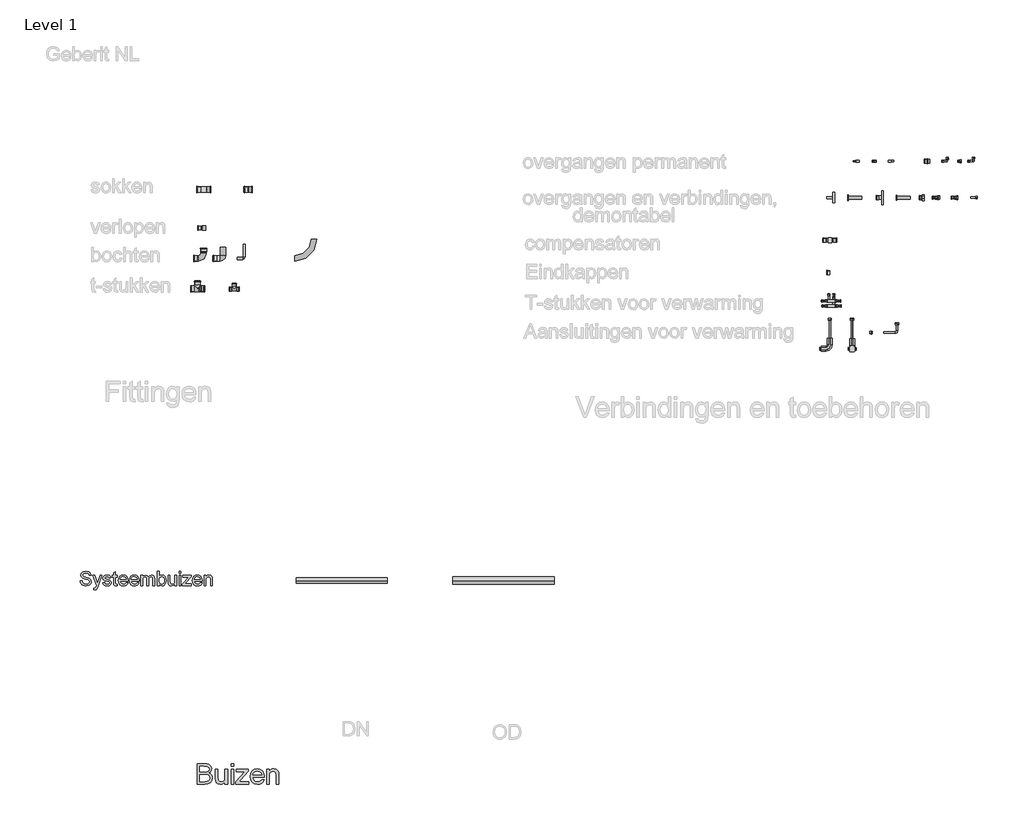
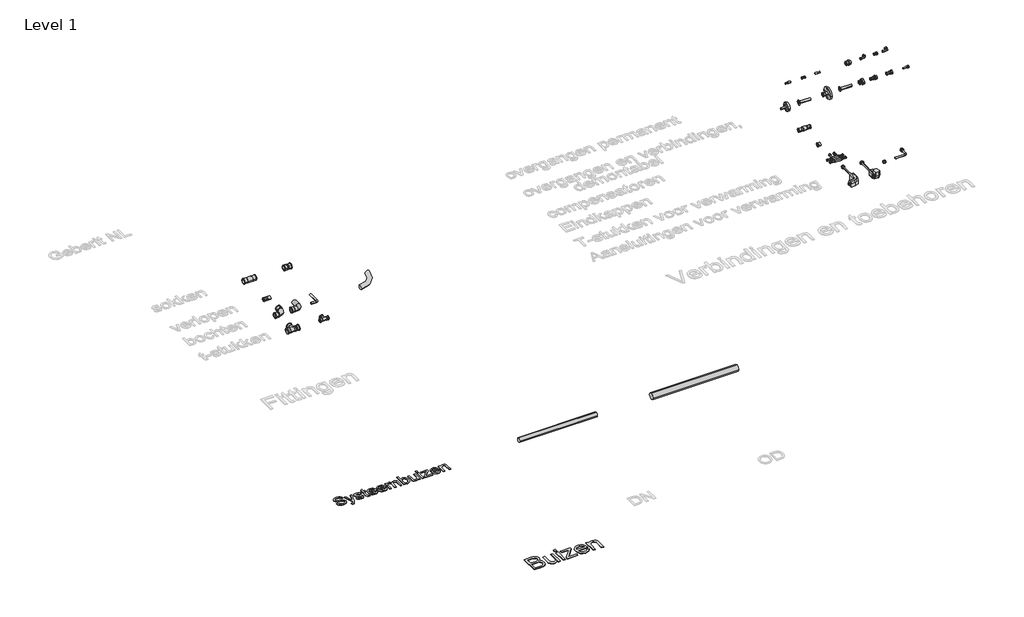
# One storey, part 1 of 8: 30 pipe fittings, 3 pipe segments, 2 proxies.
"""IFC4 building model written with IfcOpenShell, lengths in millimetres."""

from ifc_helpers import new_model, si_unit, point, frame, frame_2d, origin, origin_with_axes, place, context, project, spatial, polyline, circle_curve, trimmed, segment, composite_curve, outline, extrude, transform, mapped, element, save
from components import pipe_fitting_f131157e, pipe_fitting_ef4b92c7, pipe_fitting_d829275a, pipe_fitting_d16b05df, pipe_fitting_df6c98cd, pipe_fitting_f14cd62b, pipe_fitting_d1afa636, pipe_fitting_58cf78d7, pipe_fitting_7e052b8f, pipe_fitting_bf6d9b78, pipe_fitting_812e0acf, pipe_fitting_fd989550, pipe_fitting_7fbc6128, pipe_fitting_85b2fc61, pipe_fitting_1523a521, pipe_fitting_2e0e9b0a, pipe_fitting_d5600d2a, pipe_fitting_86d36912, pipe_fitting_3b2257b0, pipe_fitting_caa33bd4, pipe_fitting_c2962759, pipe_fitting_7915c5a4, pipe_fitting_14417a9a, pipe_fitting_bc17f14c, pipe_fitting_6f0e400b, pipe_fitting_93ddfdb1, pipe_fitting_02f2142c, pipe_fitting_28b5c15c, pipe_fitting_a9847738, pipe_fitting_fbca41b0, pipe_fitting_a43a226b, dn10_50_d12_54_8f782e33

model = new_model("IFC4")

# Units and contexts
model_context = context("Model", 3, world=origin())
ifc_project = project(units=[si_unit("LENGTHUNIT", "METRE", prefix="MILLI")], contexts=[model_context])

# Site, building, storey
site = spatial("IfcSite", under=ifc_project)
building = spatial("IfcBuilding", under=site)
storey = spatial("IfcBuildingStorey", under=building, Name="Level 1", Elevation=0.0)

# Proxies
placement = place(None, origin())
element("IfcBuildingElementProxy", 1, Name="medium", ObjectType="medium", at=placement, inside=storey, context=model_context, shape_type="SweptSolid", body=[
    extrude(outline(polyline([(-587.7503667, -500.1108057), (-587.7503667, -299.1981854), (-511.0837589, -299.1981854), (-489.9979892, -300.6758447), (-473.5352699, -305.1088227), (-460.9169175, -312.6074841), (-451.3642483, -323.2821933), (-445.3493777, -335.8392321), (-443.3444208, -348.984882), (-445.0305466, -361.0820683), (-450.0889241, -372.4557533), (-458.5563413, -382.4069613), (-470.4695866, -390.2367164), (-456.2386848, -397.6679327), (-445.7233911, -408.9741727), (-439.2302738, -423.4074097), (-437.0659014, -440.2196168), (-442.9765388, -467.2221553), (-457.6182422, -486.4501209), (-479.4704327, -496.6527149), (-511.6723701, -500.1108057), (-587.7503667, -500.1108057)]), holes=[polyline([(-562.6362891, -474.9967281), (-511.1328098, -474.9967281), (-492.4934554, -474.0157095), (-476.7235805, -468.5465305), (-466.2757319, -457.3874433), (-462.179979, -440.4648715), (-466.9869704, -420.9426003), (-473.2838839, -413.8853974), (-482.5606415, -409.2930038), (-513.5853564, -405.9330149), (-562.6362891, -405.9330149), (-562.6362891, -474.9967281)]), polyline([(-562.6362891, -380.8189374), (-516.7736671, -380.8189374), (-489.9918578, -378.6606963), (-473.8786264, -369.3655446), (-468.4584984, -353.0070585), (-473.5107444, -336.624047), (-487.9807696, -326.9364878), (-520.2562833, -324.3122629), (-562.6362891, -324.3122629), (-562.6362891, -380.8189374)])]), origin_with_axes(), (0.0, 0.0, 1.0), 5.0),
    extrude(outline(polyline([(-311.4955137, -500.1108057), (-311.4955137, -474.7514735), (-320.582199, -487.2196074), (-331.1649378, -496.1254174), (-343.2437299, -501.4689034), (-356.8185756, -503.2500653), (-380.4365996, -498.2468702), (-396.7215093, -485.6898314), (-404.2017765, -467.1976298), (-405.6733045, -443.8493859), (-405.6733045, -352.5656001), (-380.559227, -352.5656001), (-380.559227, -432.0281111), (-379.0386481, -457.6326979), (-375.3782222, -466.1736916), (-369.1058342, -472.6668088), (-350.3929034, -478.1359878), (-329.4236296, -472.5441815), (-321.066577, -465.9406997), (-315.5667412, -457.3138669), (-311.4955137, -429.3303098), (-311.4955137, -352.5656001), (-286.3814362, -352.5656001), (-286.3814362, -500.1108057), (-311.4955137, -500.1108057)])), origin_with_axes(), (0.0, 0.0, 1.0), 5.0),
    extrude(outline(polyline([(-251.8495796, -324.3122629), (-251.8495796, -299.1981854), (-226.7355021, -299.1981854), (-226.7355021, -324.3122629), (-251.8495796, -324.3122629)])), origin_with_axes(), (0.0, 0.0, 1.0), 5.0),
    extrude(outline(polyline([(-251.8495796, -500.1108057), (-251.8495796, -352.5656001), (-226.7355021, -352.5656001), (-226.7355021, -500.1108057), (-251.8495796, -500.1108057)])), origin_with_axes(), (0.0, 0.0, 1.0), 5.0),
    extrude(outline(polyline([(-204.7606842, -500.1108057), (-204.7606842, -476.4682561), (-118.0876862, -377.6796777), (-143.7413239, -377.6796777), (-198.4821648, -377.6796777), (-198.4821648, -352.5656001), (-82.3295562, -352.5656001), (-82.3295562, -373.9027558), (-159.1923677, -461.5567726), (-170.9645916, -474.9967281), (-141.9264394, -474.9967281), (-79.1902965, -474.9967281), (-79.1902965, -500.1108057), (-204.7606842, -500.1108057)])), origin_with_axes(), (0.0, 0.0, 1.0), 5.0),
    extrude(outline(polyline([(49.2250453, -456.16117), (73.8486135, -459.3004297), (64.976526, -477.8539449), (50.8192006, -491.7230962), (31.6954682, -500.3683231), (7.9241599, -503.2500653), (-21.5431879, -498.277527), (-44.2169815, -483.3599121), (-58.6747439, -459.4659766), (-63.4939981, -427.5644762), (-58.625693, -394.5899867), (-44.0207778, -369.9296303), (-21.6535525, -354.5521629), (6.5016829, -349.4263404), (33.7801328, -354.5399002), (55.577141, -369.8805794), (69.8693566, -394.4918848), (74.6334284, -427.4173234), (74.4862756, -434.1863521), (-38.3799205, -434.1863521), (-34.0327816, -452.9851221), (-23.9344209, -466.8052224), (-9.3601625, -475.3032964), (8.4146693, -478.1359878), (33.0382375, -472.887538), (42.1862364, -466.0817211), (49.2250453, -456.16117)]), holes=[polyline([(-38.3799205, -409.0722746), (49.5193509, -409.0722746), (46.1225738, -395.8039973), (39.4639097, -386.3126418), (24.8222062, -377.4834739), (6.403581, -374.540418), (-10.5251221, -376.8887314), (-24.523032, -383.9336716), (-34.2535108, -394.9149491), (-38.3799205, -409.0722746)])]), origin_with_axes(), (0.0, 0.0, 1.0), 5.0),
    extrude(outline(polyline([(99.7475059, -500.1108057), (99.7475059, -352.5656001), (124.8615835, -352.5656001), (124.8615835, -373.1669919), (133.5865181, -362.7804569), (144.0650236, -355.3615033), (156.2971, -350.9101311), (170.2827471, -349.4263404), (193.9988731, -354.2088064), (210.1856809, -366.7658451), (217.714999, -385.2335213), (219.0393742, -409.513733), (219.0393742, -500.1108057), (193.9252967, -500.1108057), (193.9252967, -412.8982473), (191.0312917, -390.6781748), (180.8041722, -378.9304764), (163.5627694, -374.540418), (148.8536209, -377.0052273), (136.3149762, -384.3996554), (127.7249317, -398.6857396), (124.8615835, -421.8255171), (124.8615835, -500.1108057), (99.7475059, -500.1108057)])), origin_with_axes(), (0.0, 0.0, 1.0), 5.0),
])
element("IfcBuildingElementProxy", 2, Name="small", ObjectType="small", at=placement, inside=storey, context=model_context, shape_type="SweptSolid", body=[
    extrude(outline(polyline([(-1740.3989931, 1506.8471385), (-1722.8191388, 1506.8471385), (-1717.1537561, 1489.2501164), (-1703.316488, 1478.1253648), (-1682.2343971, 1473.8849117), (-1663.8648228, 1477.0952953), (-1652.0018548, 1485.919558), (-1648.1047582, 1497.7138548), (-1651.0232887, 1508.6840959), (-1662.9720959, 1516.6671352), (-1688.5693251, 1523.3797553), (-1716.1236865, 1532.0495077), (-1731.0768634, 1545.1313914), (-1736.0040296, 1562.6082388), (-1729.9094512, 1582.5057496), (-1722.411403, 1590.6432993), (-1712.1064151, 1596.5490316), (-1686.0456546, 1601.3388552), (-1658.2337758, 1596.3258499), (-1647.5725556, 1590.1368485), (-1639.6925232, 1581.5958548), (-1634.7052696, 1571.2350715), (-1632.7223857, 1559.5867013), (-1650.30224, 1559.5867013), (-1653.5297913, 1570.0762433), (-1660.2595793, 1577.6472547), (-1670.774873, 1582.2310644), (-1685.3589416, 1583.7590009), (-1700.2863666, 1582.2482322), (-1710.5269751, 1577.715926), (-1716.4498752, 1571.0462255), (-1718.4241753, 1563.1232736), (-1712.8274639, 1550.9341168), (-1684.122858, 1541.1141201), (-1653.0147565, 1532.2898573), (-1636.0014405, 1518.0405613), (-1630.5249039, 1498.1602183), (-1632.100052, 1487.3230279), (-1636.8254962, 1477.1296309), (-1644.5080985, 1468.3568716), (-1654.9547209, 1461.7815941), (-1681.5476841, 1456.3050574), (-1698.771306, 1457.7814905), (-1712.9476386, 1462.2107897), (-1724.2397765, 1469.6101229), (-1732.8108138, 1479.9966579), (-1738.3131022, 1492.649346), (-1740.3989931, 1506.8471385)])), origin_with_axes(), (0.0, 0.0, 1.0), 5.0),
    extrude(outline(polyline([(-1606.3526043, 1418.9478671), (-1608.5500861, 1435.875344), (-1599.6228163, 1434.3302396), (-1591.2792527, 1436.270204), (-1586.1632404, 1441.6780693), (-1581.356249, 1454.6226104), (-1579.9828229, 1458.8802314), (-1617.3400132, 1561.7841831), (-1598.7987606, 1561.7841831), (-1578.9870889, 1504.4436428), (-1572.0856227, 1481.5074267), (-1565.1841565, 1501.7654619), (-1544.8231143, 1561.7841831), (-1526.4192044, 1561.7841831), (-1562.3686329, 1456.0303722), (-1571.7079305, 1433.0941561), (-1581.9056194, 1420.6989854), (-1595.6055449, 1416.7503853), (-1606.3526043, 1418.9478671)])), origin_with_axes(), (0.0, 0.0, 1.0), 5.0),
    extrude(outline(polyline([(-1518.4533329, 1489.2672842), (-1500.8734786, 1491.464766), (-1498.1008746, 1483.945258), (-1492.7359289, 1478.4172179), (-1474.0916694, 1473.8849117), (-1456.1684586, 1478.0395257), (-1450.3313976, 1487.7908511), (-1456.2027942, 1495.6880513), (-1474.2976833, 1500.7010566), (-1500.7704717, 1509.3021377), (-1512.3244188, 1519.3453161), (-1516.2558511, 1533.5259408), (-1513.096971, 1546.6249923), (-1504.4787222, 1556.6338352), (-1493.3024671, 1561.8356866), (-1478.1776121, 1563.9816649), (-1456.7865003, 1560.5309318), (-1443.1895818, 1551.1916342), (-1437.1465069, 1535.4144017), (-1454.7263611, 1533.2169199), (-1461.3359743, 1542.9167418), (-1476.8041859, 1546.4018106), (-1493.6286559, 1543.0712523), (-1498.6759968, 1535.3113947), (-1496.581522, 1530.1953824), (-1490.0234123, 1526.3154537), (-1474.8813894, 1522.5728675), (-1449.0781462, 1514.2979752), (-1437.0950034, 1504.9243419), (-1432.7515433, 1489.6449764), (-1437.8503877, 1472.8205065), (-1452.563215, 1460.6141819), (-1474.3320189, 1456.3050574), (-1492.0577997, 1458.3823644), (-1504.993757, 1464.6142854), (-1513.6291737, 1474.9321491), (-1518.4533329, 1489.2672842)])), origin_with_axes(), (0.0, 0.0, 1.0), 5.0),
    extrude(outline(polyline([(-1375.6170169, 1473.163863), (-1373.4195351, 1457.9875044), (-1386.5700902, 1456.3050574), (-1401.3000852, 1459.2235879), (-1408.647915, 1466.8804385), (-1410.7767254, 1486.8294528), (-1410.7767254, 1544.2043288), (-1423.9616162, 1544.2043288), (-1423.9616162, 1561.7841831), (-1410.7767254, 1561.7841831), (-1410.7767254, 1586.8835453), (-1393.1968712, 1597.2185769), (-1393.1968712, 1561.7841831), (-1375.6170169, 1561.7841831), (-1375.6170169, 1544.2043288), (-1393.1968712, 1544.2043288), (-1393.1968712, 1487.3444876), (-1392.2698085, 1478.2798753), (-1389.2654389, 1475.0694917), (-1383.2738675, 1473.8849117), (-1375.6170169, 1473.163863)])), origin_with_axes(), (0.0, 0.0, 1.0), 5.0),
    extrude(outline(polyline([(-1285.7262776, 1489.2672842), (-1268.4897799, 1487.0698024), (-1274.7002411, 1474.0823417), (-1284.6103689, 1464.3739359), (-1297.9969816, 1458.322277), (-1314.6368974, 1456.3050574), (-1335.2640408, 1459.7858342), (-1351.1356964, 1470.2281647), (-1361.2561301, 1486.9539196), (-1364.629608, 1509.2849698), (-1361.2217944, 1532.3671125), (-1350.9983538, 1549.629362), (-1335.3412961, 1560.3935891), (-1315.6326313, 1563.9816649), (-1296.5377163, 1560.4021731), (-1281.2798106, 1549.6636976), (-1271.2752597, 1532.4357838), (-1267.9404095, 1509.3879768), (-1268.0434164, 1504.6496567), (-1347.0497537, 1504.6496567), (-1344.0067565, 1491.4905177), (-1336.9379039, 1481.8164475), (-1326.7359231, 1475.8677957), (-1314.2935408, 1473.8849117), (-1297.0570431, 1477.5588266), (-1285.7262776, 1489.2672842)]), holes=[polyline([(-1347.0497537, 1522.229511), (-1285.5202637, 1522.229511), (-1292.5590726, 1538.1612539), (-1302.808265, 1544.3416714), (-1315.7013026, 1546.4018106), (-1327.5513948, 1544.7579912), (-1337.3499318, 1539.8265331), (-1344.1612669, 1532.1396388), (-1347.0497537, 1522.229511)])]), origin_with_axes(), (0.0, 0.0, 1.0), 5.0),
    extrude(outline(polyline([(-1178.0496702, 1489.2672842), (-1160.8131725, 1487.0698024), (-1167.0236337, 1474.0823417), (-1176.9337615, 1464.3739359), (-1190.3203742, 1458.322277), (-1206.9602899, 1456.3050574), (-1227.5874334, 1459.7858342), (-1243.4590889, 1470.2281647), (-1253.5795226, 1486.9539196), (-1256.9530005, 1509.2849698), (-1253.545187, 1532.3671125), (-1243.3217463, 1549.629362), (-1227.6646886, 1560.3935891), (-1207.9560239, 1563.9816649), (-1188.8611089, 1560.4021731), (-1173.6032032, 1549.6636976), (-1163.5986523, 1532.4357838), (-1160.263802, 1509.3879768), (-1160.366809, 1504.6496567), (-1239.3731463, 1504.6496567), (-1236.330149, 1491.4905177), (-1229.2612965, 1481.8164475), (-1219.0593156, 1475.8677957), (-1206.6169334, 1473.8849117), (-1189.3804357, 1477.5588266), (-1178.0496702, 1489.2672842)]), holes=[polyline([(-1239.3731463, 1522.229511), (-1177.8436563, 1522.229511), (-1184.8824651, 1538.1612539), (-1195.1316575, 1544.3416714), (-1208.0246952, 1546.4018106), (-1219.8747874, 1544.7579912), (-1229.6733243, 1539.8265331), (-1236.4846595, 1532.1396388), (-1239.3731463, 1522.229511)])]), origin_with_axes(), (0.0, 0.0, 1.0), 5.0),
    extrude(outline(polyline([(-1142.6839477, 1458.5025392), (-1142.6839477, 1561.7841831), (-1125.1040935, 1561.7841831), (-1125.1040935, 1544.7880349), (-1113.0179436, 1558.7111422), (-1095.8157815, 1563.9816649), (-1078.2015916, 1558.6081352), (-1068.5189375, 1543.5519514), (-1054.8018442, 1558.8742365), (-1037.4795073, 1563.9816649), (-1024.2645729, 1561.8571464), (-1014.4917877, 1555.4835908), (-1008.4530047, 1544.6893199), (-1006.4400771, 1529.3026555), (-1006.4400771, 1458.5025392), (-1024.0199314, 1458.5025392), (-1024.0199314, 1521.7488118), (-1025.6508749, 1536.4273034), (-1031.5566072, 1543.6549584), (-1041.5997856, 1546.4018106), (-1051.1236374, 1544.6421084), (-1058.8877869, 1539.3630018), (-1064.0510107, 1530.2039664), (-1065.7720853, 1516.8044778), (-1065.7720853, 1458.5025392), (-1083.3519396, 1458.5025392), (-1083.3519396, 1523.705944), (-1087.4207144, 1540.7364279), (-1092.7899521, 1544.9854649), (-1100.7601156, 1546.4018106), (-1113.773328, 1542.6248888), (-1122.4259125, 1531.5688086), (-1125.1040935, 1510.5897246), (-1125.1040935, 1458.5025392), (-1142.6839477, 1458.5025392)])), origin_with_axes(), (0.0, 0.0, 1.0), 5.0),
    extrude(outline(polyline([(-962.4904414, 1458.5025392), (-980.0702957, 1458.5025392), (-980.0702957, 1599.1413734), (-962.4904414, 1599.1413734), (-962.4904414, 1546.9855167), (-950.1811098, 1559.7326278), (-934.8845765, 1563.9816649), (-917.2703866, 1560.1532396), (-903.6047967, 1549.3890124), (-895.2097296, 1532.6503816), (-892.1710243, 1511.6884655), (-895.3170285, 1488.2200468), (-904.7550411, 1470.7603673), (-918.6051851, 1459.9188849), (-934.9875834, 1456.3050574), (-950.6188894, 1460.9661223), (-962.4904414, 1474.9493169), (-962.4904414, 1458.5025392)]), holes=[polyline([(-962.4904414, 1510.8644099), (-961.2886936, 1496.2030861), (-957.68345, 1486.2800824), (-948.4729111, 1476.9837044), (-936.4983522, 1473.8849117), (-926.3521667, 1476.1682326), (-917.6824144, 1483.0181954), (-911.7337625, 1494.3918804), (-909.7508786, 1510.2463681), (-911.6522154, 1526.3326215), (-917.3562257, 1537.5775478), (-925.7555848, 1544.1957449), (-935.7429678, 1546.4018106), (-945.8891532, 1544.1184897), (-954.5589056, 1537.2685269), (-960.5075574, 1526.1008558), (-962.4904414, 1510.8644099)])]), origin_with_axes(), (0.0, 0.0, 1.0), 5.0),
    extrude(outline(polyline([(-806.4692347, 1458.5025392), (-806.4692347, 1476.2540718), (-820.2378315, 1461.292311), (-838.195378, 1456.3050574), (-854.7279948, 1459.807294), (-866.1274316, 1468.5972212), (-871.3636187, 1481.5417623), (-872.3936882, 1497.8855331), (-872.3936882, 1561.7841831), (-854.813834, 1561.7841831), (-854.813834, 1506.1604254), (-853.7494287, 1488.2372146), (-846.796459, 1477.713337), (-833.6974074, 1473.8849117), (-819.0189158, 1477.7991761), (-809.3190939, 1488.4603964), (-806.4692347, 1508.0488863), (-806.4692347, 1561.7841831), (-788.8893804, 1561.7841831), (-788.8893804, 1458.5025392), (-806.4692347, 1458.5025392)])), origin_with_axes(), (0.0, 0.0, 1.0), 5.0),
    extrude(outline(polyline([(-764.7170808, 1581.5615192), (-764.7170808, 1599.1413734), (-747.1372265, 1599.1413734), (-747.1372265, 1581.5615192), (-764.7170808, 1581.5615192)])), origin_with_axes(), (0.0, 0.0, 1.0), 5.0),
    extrude(outline(polyline([(-764.7170808, 1458.5025392), (-764.7170808, 1561.7841831), (-747.1372265, 1561.7841831), (-747.1372265, 1458.5025392), (-764.7170808, 1458.5025392)])), origin_with_axes(), (0.0, 0.0, 1.0), 5.0),
    extrude(outline(polyline([(-731.754854, 1458.5025392), (-731.754854, 1475.0523239), (-671.0837554, 1544.2043288), (-689.0413018, 1544.2043288), (-727.3598905, 1544.2043288), (-727.3598905, 1561.7841831), (-646.0530644, 1561.7841831), (-646.0530644, 1546.8481741), (-699.8570325, 1485.4903624), (-708.0975892, 1476.0823935), (-687.7708827, 1476.0823935), (-643.8555826, 1476.0823935), (-643.8555826, 1458.5025392), (-731.754854, 1458.5025392)])), origin_with_axes(), (0.0, 0.0, 1.0), 5.0),
    extrude(outline(polyline([(-553.9648434, 1489.2672842), (-536.7283457, 1487.0698024), (-542.9388069, 1474.0823417), (-552.8489347, 1464.3739359), (-566.2355473, 1458.322277), (-582.8754631, 1456.3050574), (-603.5026066, 1459.7858342), (-619.3742621, 1470.2281647), (-629.4946958, 1486.9539196), (-632.8681737, 1509.2849698), (-629.4603602, 1532.3671125), (-619.2369195, 1549.629362), (-603.5798618, 1560.3935891), (-583.8711971, 1563.9816649), (-564.7762821, 1560.4021731), (-549.5183764, 1549.6636976), (-539.5138255, 1532.4357838), (-536.1789752, 1509.3879768), (-536.2819822, 1504.6496567), (-615.2883194, 1504.6496567), (-612.2453222, 1491.4905177), (-605.1764697, 1481.8164475), (-594.9744888, 1475.8677957), (-582.5321066, 1473.8849117), (-565.2956089, 1477.5588266), (-553.9648434, 1489.2672842)]), holes=[polyline([(-615.2883194, 1522.229511), (-553.7588295, 1522.229511), (-560.7976383, 1538.1612539), (-571.0468307, 1544.3416714), (-583.9398684, 1546.4018106), (-595.7899606, 1544.7579912), (-605.5884975, 1539.8265331), (-612.3998326, 1532.1396388), (-615.2883194, 1522.229511)])]), origin_with_axes(), (0.0, 0.0, 1.0), 5.0),
    extrude(outline(polyline([(-518.5991209, 1458.5025392), (-518.5991209, 1561.7841831), (-501.0192667, 1561.7841831), (-501.0192667, 1547.3632089), (-487.5768585, 1559.8270509), (-469.2244521, 1563.9816649), (-452.6231639, 1560.6339387), (-441.2923985, 1551.8440116), (-436.0218757, 1538.9166383), (-435.0948131, 1521.9204901), (-435.0948131, 1458.5025392), (-452.6746674, 1458.5025392), (-452.6746674, 1519.55133), (-454.7004709, 1535.1053808), (-461.8594545, 1543.3287697), (-473.9284365, 1546.4018106), (-484.2248404, 1544.676444), (-493.0018917, 1539.5003444), (-499.0149229, 1529.5000855), (-501.0192667, 1513.3022412), (-501.0192667, 1458.5025392), (-518.5991209, 1458.5025392)])), origin_with_axes(), (0.0, 0.0, 1.0), 5.0),
])

# Pipe fittings
pipe_fitting_shape = pipe_fitting_f131157e(model_context)
element("IfcPipeFitting", 3, ObjectType="NLRS_50_PIF_UN_Geberit Mapress radiatoraansluiting 90° met isolatiebox en schroefaansluiting voor Euroconus_PRO_1079240 : DN12-12-G3/4\" / d15-15-G3/4\" - OD", at=placement, inside=storey, context=model_context, shape_type="MappedRepresentation", body=[
    mapped(pipe_fitting_shape, transform((5661.662055, 3798.3428958, 0.0), x_axis=(1.0, 0.0, 0.0), y_axis=(0.0, 1.0, 0.0), z_axis=(0.0, 0.0, 1.0))),
])
pipe_fitting_2_shape = pipe_fitting_ef4b92c7(model_context)
element("IfcPipeFitting", 4, ObjectType="NLRS_50_PIF_UN_Geberit Mapress rvs axiale compensator met persmoffen_PRO_247182 : DN12-100 / d15-108 - OD", at=placement, inside=storey, context=model_context, shape_type="MappedRepresentation", body=[
    mapped(pipe_fitting_2_shape, transform((5661.662055, 4870.8053825, 0.0), x_axis=(1.0, 0.0, 0.0), y_axis=(0.0, 1.0, 0.0), z_axis=(0.0, 0.0, 1.0))),
])
pipe_fitting_3_shape = pipe_fitting_d829275a(model_context)
element("IfcPipeFitting", 5, ObjectType="NLRS_50_PIF_UN_Geberit Mapress Therm flens PN 10_16, met persmof_PRO_3208089 : DN12-100 / d15-108 - OD", at=placement, inside=storey, context=model_context, shape_type="MappedRepresentation", body=[
    mapped(pipe_fitting_3_shape, transform((6181.662055, 5290.8053825, 0.0), x_axis=(1.0, 0.0, 0.0), y_axis=(0.0, 1.0, 0.0), z_axis=(0.0, 0.0, 1.0))),
])
pipe_fitting_4_shape = pipe_fitting_d16b05df(model_context)
element("IfcPipeFitting", 6, ObjectType="NLRS_50_PIF_UN_Geberit Mapress Therm overgang met buitendraad_PRO_3208039 : DN12-100-R3\" / d15-108-R3\" - OD", at=placement, inside=storey, context=model_context, shape_type="MappedRepresentation", body=[
    mapped(pipe_fitting_4_shape, transform((6621.662055, 5650.8053825, 0.0), x_axis=(1.0, 0.0, 0.0), y_axis=(0.0, 1.0, 0.0), z_axis=(0.0, 0.0, 1.0))),
])
pipe_fitting_5_shape = pipe_fitting_df6c98cd(model_context)
element("IfcPipeFitting", 7, ObjectType="NLRS_50_PIF_UN_Geberit Mapress Therm overgang met wartel_PRO_3208096 : DN12-80-G3.1/2\" / d15-89-G3.1/2\" - OD", at=placement, inside=storey, context=model_context, shape_type="MappedRepresentation", body=[
    mapped(pipe_fitting_5_shape, transform((6568.412055, 5290.8053825, 0.0), x_axis=(1.0, 0.0, 0.0), y_axis=(0.0, 1.0, 0.0), z_axis=(0.0, 0.0, 1.0))),
])
pipe_fitting_6_shape = pipe_fitting_f14cd62b(model_context)
element("IfcPipeFitting", 8, ObjectType="NLRS_50_PIF_UN_Geberit Mapress Therm overschuifsok_PRO_3207553 : DN12-100 / d15-108 - OD", at=placement, inside=storey, context=model_context, shape_type="MappedRepresentation", body=[
    mapped(pipe_fitting_6_shape, transform((-522.2410764, 5370.8053825, 0.0), x_axis=(1.0, 0.0, 0.0), y_axis=(0.0, 1.0, 0.0), z_axis=(0.0, 0.0, 1.0))),
])
pipe_fitting_7_shape = pipe_fitting_d1afa636(model_context)
element("IfcPipeFitting", 9, ObjectType="NLRS_50_PIF_UN_Geberit Mapress Therm sok_PRO_3207533 : DN10-100 / d12-108 - OD", at=placement, inside=storey, context=model_context, shape_type="MappedRepresentation", body=[
    mapped(pipe_fitting_7_shape, transform((-82.2410764, 5370.8053825, 0.0), x_axis=(1.0, 0.0, 0.0), y_axis=(0.0, 1.0, 0.0), z_axis=(0.0, 0.0, 1.0))),
])
pipe_fitting_8_shape = pipe_fitting_58cf78d7(model_context)
element("IfcPipeFitting", 10, ObjectType="NLRS_50_PIF_UN_Geberit Mepla overgang naar Geberit Mapress, met insteekeinde_PRO_102866 : DN12-50 / d16-63 - OD", at=placement, inside=storey, context=model_context, shape_type="MappedRepresentation", body=[
    mapped(pipe_fitting_8_shape, transform((5921.662055, 5650.8053825, 0.0), x_axis=(1.0, 0.0, 0.0), y_axis=(0.0, 1.0, 0.0), z_axis=(0.0, 0.0, 1.0))),
])
pipe_fitting_9_shape = pipe_fitting_7e052b8f(model_context)
element("IfcPipeFitting", 11, ObjectType="NLRS_50_PIF_UN_Geberit PushFit overgang naar Geberit Mapress, met insteekeinden_PRO_102728 : DN12-20 / d16-25 - OD", at=placement, inside=storey, context=model_context, shape_type="MappedRepresentation", body=[
    mapped(pipe_fitting_9_shape, transform((6266.662055, 5650.8053825, 0.0), x_axis=(1.0, 0.0, 0.0), y_axis=(0.0, 1.0, 0.0), z_axis=(0.0, 0.0, 1.0))),
])
pipe_fitting_10_shape = pipe_fitting_bf6d9b78(model_context)
element("IfcPipeFitting", 12, ObjectType="NLRS_50_PIF_UN_Geberit radiatoraansluitbocht 90° met schroefaansluiting voor Euroconus_PRO_1079215 : DN12-12-G3/4'' / d15-15-G3/4'' - OD", at=placement, inside=storey, context=model_context, shape_type="MappedRepresentation", body=[
    mapped(pipe_fitting_10_shape, transform((6325.4745579, 3957.5227633, 0.0), x_axis=(1.0, 0.0, 0.0), y_axis=(0.0, 1.0, 0.0), z_axis=(0.0, 0.0, 1.0))),
])
pipe_fitting_11_shape = pipe_fitting_812e0acf(model_context)
element("IfcPipeFitting", 13, ObjectType="NLRS_50_PIF_UN_Geberit Mapress rvs pasbocht_PRO_103033 : DN12-100 / d15-108 - OD", at=placement, inside=storey, context=model_context, shape_type="MappedRepresentation", body=[
    mapped(pipe_fitting_11_shape, transform((-122.2410764, 4690.8053825, 0.0), x_axis=(1.0, 0.0, 0.0), y_axis=(0.0, 1.0, 0.0), z_axis=(0.0, 0.0, 1.0))),
])
pipe_fitting_12_shape = pipe_fitting_fd989550(model_context)
element("IfcPipeFitting", 14, ObjectType="NLRS_50_PIF_UN_Geberit Mapress Therm bocht met insteekeinde_PRO_3207565 : DN12-100 / d15-108 - OD", at=placement, inside=storey, context=model_context, shape_type="MappedRepresentation", body=[
    mapped(pipe_fitting_12_shape, transform((-330.0570667, 4690.8053825, 0.0), x_axis=(1.0, 0.0, 0.0), y_axis=(0.0, 1.0, 0.0), z_axis=(0.0, 0.0, 1.0))),
])
pipe_fitting_13_shape = pipe_fitting_7fbc6128(model_context)
element("IfcPipeFitting", 15, ObjectType="NLRS_50_PIF_UN_Geberit Mapress Therm bocht_PRO_3207561 : DN10-100 / d12-108 - OD", at=placement, inside=storey, context=model_context, shape_type="MappedRepresentation", body=[
    mapped(pipe_fitting_13_shape, transform((-522.2410764, 4690.8053825, 0.0), x_axis=(1.0, 0.0, 0.0), y_axis=(0.0, 1.0, 0.0), z_axis=(0.0, 0.0, 1.0))),
])
pipe_fitting_14_shape = pipe_fitting_85b2fc61(model_context)
element("IfcPipeFitting", 16, ObjectType="NLRS_50_PIF_UN_Geberit Mapress Therm overgangsknie 90° met binnendraad_PRO_3208051 : DN12-32-Rp1.1/4\" / d15-35-Rp1.1/4\" - OD", at=placement, inside=storey, context=model_context, shape_type="MappedRepresentation", body=[
    mapped(pipe_fitting_14_shape, transform((7081.662055, 5650.8053825, 0.0), x_axis=(1.0, 0.0, 0.0), y_axis=(0.0, 1.0, 0.0), z_axis=(0.0, 0.0, 1.0))),
])
pipe_fitting_15_shape = pipe_fitting_1523a521(model_context)
element("IfcPipeFitting", 17, ObjectType="NLRS_50_PIF_UN_Geberit Mapress Therm overgangsknie 90° met buitendraad_PRO_3208047 : DN12-50 / R½\"-2\" / d15-54 / R½\"-2\" - OD", at=placement, inside=storey, context=model_context, shape_type="MappedRepresentation", body=[
    mapped(pipe_fitting_15_shape, transform((6821.662055, 5650.8053825, 0.0), x_axis=(1.0, 0.0, 0.0), y_axis=(0.0, 1.0, 0.0), z_axis=(0.0, 0.0, 1.0))),
])
pipe_fitting_16_shape = pipe_fitting_2e0e9b0a(model_context)
element("IfcPipeFitting", 18, ObjectType="NLRS_50_PIF_UN_Geberit Mapress Therm kap_PRO_3207990 : DN12-100 / d15-108 - OD", at=placement, inside=storey, context=model_context, shape_type="MappedRepresentation", body=[
    mapped(pipe_fitting_16_shape, transform((5661.662055, 4550.8053825, 0.0), x_axis=(1.0, 0.0, 0.0), y_axis=(0.0, 1.0, 0.0), z_axis=(0.0, 0.0, 1.0))),
])
pipe_fitting_17_shape = pipe_fitting_d5600d2a(model_context)
element("IfcPipeFitting", 19, ObjectType="NLRS_50_PIF_UN_Geberit Mapress radiatoraansluit-T-stuk met isolatiebox en schroefaansluiting voor Euroconus_PRO_1079243 : DN12-15-G3/4\" / d15-18-G3/4\" - OD", at=placement, inside=storey, context=model_context, shape_type="MappedRepresentation", body=[
    mapped(pipe_fitting_17_shape, transform((5881.0818546, 3798.3428958, 0.0), x_axis=(1.0, 0.0, 0.0), y_axis=(0.0, 1.0, 0.0), z_axis=(0.0, 0.0, 1.0))),
])
pipe_fitting_18_shape = pipe_fitting_86d36912(model_context)
element("IfcPipeFitting", 20, ObjectType="NLRS_50_PIF_UN_Geberit Mapress Therm gelijkzijdig T-stuk_PRO_3207571 : DN12-100 / d15-108 - OD", at=placement, inside=storey, context=model_context, shape_type="MappedRepresentation", body=[
    mapped(pipe_fitting_18_shape, transform((-219.5313284, 4387.2979606, 0.0), x_axis=(1.0, 0.0, 0.0), y_axis=(0.0, 1.0, 0.0), z_axis=(0.0, 0.0, 1.0))),
])
pipe_fitting_19_shape = pipe_fitting_3b2257b0(model_context)
pipe_fitting_20_shape = pipe_fitting_caa33bd4(model_context)
element("IfcPipeFitting", 21, ObjectType="NLRS_50_PIF_UN_Geberit Mapress kruising-T-stuk met isolatiebox_PRO_103301 : DN10-20 / d12-22 - OD", at=placement, inside=storey, context=model_context, shape_type="MappedRepresentation", body=[
    mapped(pipe_fitting_19_shape, transform((5701.662055, 4270.8053825, 0.0), x_axis=(1.0, 0.0, 0.0), y_axis=(0.0, 1.0, 0.0), z_axis=(0.0, 0.0, 1.0))),
    mapped(pipe_fitting_20_shape, transform((5701.662055, 4270.8053825, 0.0), x_axis=(1.0, 0.0, 0.0), y_axis=(0.0, 1.0, 0.0), z_axis=(0.0, 0.0, 1.0))),
])
pipe_fitting_21_shape = pipe_fitting_c2962759(model_context)
element("IfcPipeFitting", 22, ObjectType="NLRS_50_PIF_UN_Geberit Mapress Therm verloop met insteekeinde_PRO_3207557 : DN10-100 / d12-108 - OD", at=placement, inside=storey, context=model_context, shape_type="MappedRepresentation", body=[
    mapped(pipe_fitting_21_shape, transform((-501.8713696, 4990.8053825, 0.0), x_axis=(-1.0, 0.0, 0.0), y_axis=(0.0, -1.0, 0.0), z_axis=(0.0, 0.0, 1.0))),
])
pipe_fitting_22_shape = pipe_fitting_7915c5a4(model_context)
element("IfcPipeFitting", 23, ObjectType="NLRS_50_PIF_UN_Mapress Therm 3-d koppeling binnendraad_PRO_3208079_geb : DN12-50-Rp2\" / d15-54-Rp2\" - OD", at=placement, inside=storey, context=model_context, shape_type="MappedRepresentation", body=[
    mapped(pipe_fitting_22_shape, transform((6895.6407726, 5290.8053825, 0.0), x_axis=(1.0, 0.0, 0.0), y_axis=(0.0, 1.0, 0.0), z_axis=(0.0, 0.0, 1.0))),
])
pipe_fitting_23_shape = pipe_fitting_14417a9a(model_context)
element("IfcPipeFitting", 24, ObjectType="NLRS_50_PIF_UN_Geberit Mapress Therm T-stuk : DN12-100 / d15-108 - OD", at=placement, inside=storey, context=model_context, shape_type="MappedRepresentation", body=[
    mapped(pipe_fitting_23_shape, transform((-582.2410764, 4390.8053825, 0.0), x_axis=(1.0, 0.0, 0.0), y_axis=(0.0, 1.0, 0.0), z_axis=(0.0, 0.0, 1.0))),
])
pipe_fitting_24_shape = pipe_fitting_bc17f14c(model_context)
element("IfcPipeFitting", 25, ObjectType="NLRS_50_PIF_UN_Mapress Therm 3-d koppeling buitendraad_PRO_3208083_geb : DN12-50-R2\" / d15-54-R2\" - OD", at=placement, inside=storey, context=model_context, shape_type="MappedRepresentation", body=[
    mapped(pipe_fitting_24_shape, transform((6711.3179257, 5290.8053825, 0.0), x_axis=(1.0, 0.0, 0.0), y_axis=(0.0, 1.0, 0.0), z_axis=(0.0, 0.0, 1.0))),
])
pipe_fitting_25_shape = pipe_fitting_6f0e400b(model_context)
element("IfcPipeFitting", 26, ObjectType="NLRS_50_PIF_UN_Geberit Mapress koper verloopsok_PRO_103281 : DN12-15 / d15-18 - OD", at=placement, inside=storey, context=model_context, shape_type="MappedRepresentation", body=[
    mapped(pipe_fitting_25_shape, transform((6101.662055, 5650.8053825, 0.0), x_axis=(1.0, 0.0, 0.0), y_axis=(0.0, 1.0, 0.0), z_axis=(0.0, 0.0, 1.0))),
])
pipe_fitting_26_shape = pipe_fitting_93ddfdb1(model_context)
element("IfcPipeFitting", 27, ObjectType="NLRS_50_PIF_UN_Geberit Mapress Therm overgang met binnendraad_PRO_3208043 : DN10-50-Rp2\" / d12-54-Rp2\" - OD", at=placement, inside=storey, context=model_context, shape_type="MappedRepresentation", body=[
    mapped(pipe_fitting_26_shape, transform((6941.662055, 5650.8053825, 0.0), x_axis=(1.0, 0.0, 0.0), y_axis=(0.0, 1.0, 0.0), z_axis=(0.0, 0.0, 1.0))),
])
pipe_fitting_27_shape = pipe_fitting_02f2142c(model_context)
element("IfcPipeFitting", 28, ObjectType="NLRS_50_PIF_UN_Geberit Mapress rvs flens PN 10_16, met insteekeinde_PRO_332665 : DN50-100 / d54-108 - OD", at=placement, inside=storey, context=model_context, shape_type="MappedRepresentation", body=[
    mapped(pipe_fitting_27_shape, transform((5701.662055, 5290.8053825, 0.0), x_axis=(1.0, 0.0, 0.0), y_axis=(0.0, 1.0, 0.0), z_axis=(0.0, 0.0, 1.0))),
])
pipe_fitting_28_shape = pipe_fitting_28b5c15c(model_context)
element("IfcPipeFitting", 29, ObjectType="NLRS_50_PIF_UN_Geberit Mapress rvs flenskraag met insteekeinde, voor losse flens PN 10_16_PRO_103074 : DN20-100 / d22-108 - OD", at=placement, inside=storey, context=model_context, shape_type="MappedRepresentation", body=[
    mapped(pipe_fitting_28_shape, transform((5841.662055, 5290.8053825, 0.0), x_axis=(1.0, 0.0, 0.0), y_axis=(0.0, 1.0, 0.0), z_axis=(0.0, 0.0, 1.0))),
])
pipe_fitting_29_shape = pipe_fitting_a9847738(model_context)
element("IfcPipeFitting", 30, ObjectType="NLRS_50_PIF_UN_Geberit Mapress overgang met klemring-schroefverbinding voor ribbelbuizen, NPW, insteekeinde_PRO_144536 : DN12-25 / d15-28 - OD", at=placement, inside=storey, context=model_context, shape_type="MappedRepresentation", body=[
    mapped(pipe_fitting_29_shape, transform((7101.662055, 5290.8053825, 0.0), x_axis=(1.0, 0.0, 0.0), y_axis=(0.0, 1.0, 0.0), z_axis=(0.0, 0.0, 1.0))),
])
pipe_fitting_30_shape = pipe_fitting_fbca41b0(model_context)
element("IfcPipeFitting", 31, ObjectType="NLRS_50_PIF_UN_Geberit Mapress rvs flenskraag met insteekeinde, voor losse flens PN 6_PRO_103073 : DN20-100 / d22-108 - OD", at=placement, inside=storey, context=model_context, shape_type="MappedRepresentation", body=[
    mapped(pipe_fitting_30_shape, transform((6321.662055, 5290.8053825, 0.0), x_axis=(1.0, 0.0, 0.0), y_axis=(0.0, 1.0, 0.0), z_axis=(0.0, 0.0, 1.0))),
])
pipe_fitting_31_shape = pipe_fitting_a43a226b(model_context)
element("IfcPipeFitting", 32, ObjectType="NLRS_50_PIF_UN_Geberit adapter Euroconus, met buitendraad_PRO_102948 : DN15-20/ G3/4'' / d20-26/ G3/4'' - OD", at=placement, inside=storey, context=model_context, shape_type="MappedRepresentation", body=[
    mapped(pipe_fitting_31_shape, transform((6069.4073665, 3957.5227633, 0.0), x_axis=(1.0, 0.0, 0.0), y_axis=(0.0, 1.0, 0.0), z_axis=(0.0, 0.0, 1.0))),
])

# Pipe segments
element("IfcPipeSegment", 33, ObjectType="NLRS_50_PI_Geberit Mapress Therm systeembuis CrTi_PRO_3207998 - OD", at=placement, inside=storey, context=model_context, shape_type="SweptSolid", body=[
    extrude(outline(composite_curve([segment(trimmed(circle_curve(frame_2d((1510.0797535, 40.0)), 38.05), [point((1472.0297535, 40.0))], [point((1510.0797535, 78.05))], False, "CARTESIAN"), True, "CONTINUOUS"), segment(trimmed(circle_curve(frame_2d((1510.0797535, 40.0)), 38.05), [point((1510.0797535, 78.05))], [point((1548.1297535, 40.0))], False, "CARTESIAN"), True, "CONTINUOUS"), segment(trimmed(circle_curve(frame_2d((1510.0797535, 40.0)), 38.05), [point((1548.1297535, 40.0))], [point((1510.0797535, 1.95))], False, "CARTESIAN"), True, "CONTINUOUS"), segment(trimmed(circle_curve(frame_2d((1510.0797535, 40.0)), 38.05), [point((1510.0797535, 1.95))], [point((1472.0297535, 40.0))], False, "CARTESIAN"), True, "CONTINUOUS")], self_intersect=False)), frame((1937.7589236, 0.0, 0.0), z_axis=(1.0, 0.0, 0.0), x_axis=(0.0, 1.0, 0.0)), (0.0, 0.0, 1.0), 1000.0),
])
element("IfcPipeSegment", 34, ObjectType="NLRS_50_PI_Geberit Mapress Therm systeembuis CrTi_PRO_3207998 - DN", at=placement, inside=storey, context=model_context, shape_type="SweptSolid", body=[
    extrude(outline(composite_curve([segment(trimmed(circle_curve(frame_2d((1510.0797535, 40.0)), 27.0), [point((1483.0797535, 40.0))], [point((1510.0797535, 67.0))], False, "CARTESIAN"), True, "CONTINUOUS"), segment(trimmed(circle_curve(frame_2d((1510.0797535, 40.0)), 27.0), [point((1510.0797535, 67.0))], [point((1537.0797535, 40.0))], False, "CARTESIAN"), True, "CONTINUOUS"), segment(trimmed(circle_curve(frame_2d((1510.0797535, 40.0)), 27.0), [point((1537.0797535, 40.0))], [point((1510.0797535, 13.0))], False, "CARTESIAN"), True, "CONTINUOUS"), segment(trimmed(circle_curve(frame_2d((1510.0797535, 40.0)), 27.0), [point((1510.0797535, 13.0))], [point((1483.0797535, 40.0))], False, "CARTESIAN"), True, "CONTINUOUS")], self_intersect=False)), frame((392.6075811, 0.0, 0.0), z_axis=(1.0, 0.0, 0.0), x_axis=(0.0, 1.0, 0.0)), (0.0, 0.0, 1.0), 900.0),
])
dn10_50_d12_54_shape = dn10_50_d12_54_8f782e33(model_context)
element("IfcPipeSegment", 35, ObjectType="NLRS_50_PIF_UN_Mapress Therm gebogen bocht_geb : DN10-50 / d12-54", at=placement, inside=storey, context=model_context, shape_type="MappedRepresentation", body=[
    mapped(dn10_50_d12_54_shape, transform((568.2334783, 4690.8053825, 0.0), x_axis=(1.0, 0.0, 0.0), y_axis=(0.0, 1.0, 0.0), z_axis=(0.0, 0.0, 1.0))),
])

save(model, "model.ifc")
